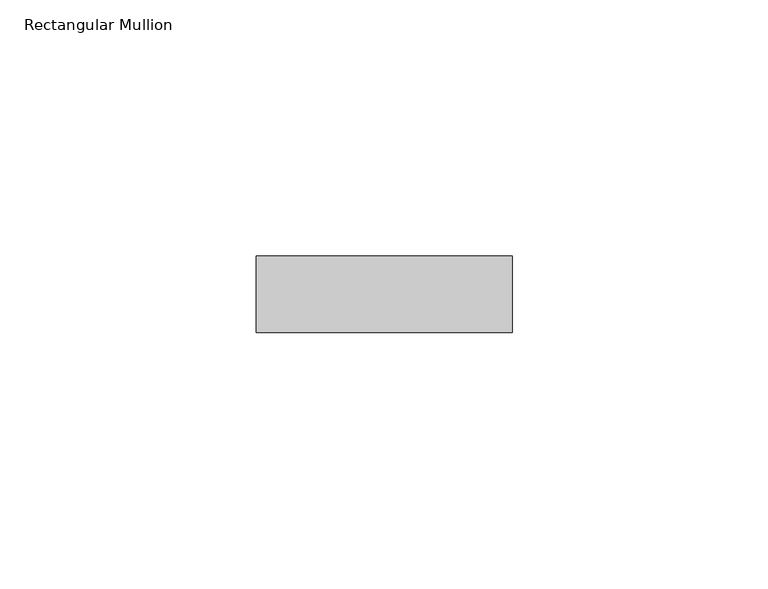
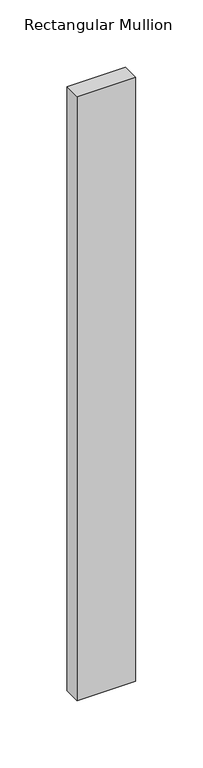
"""IFC4 building model written with IfcOpenShell, lengths in millimetres: member geometry, Rectangular Mullion : Ripa."""

from ifc_helpers import new_model, si_unit, frame, origin, place, context, project, spatial, polyline, outline, extrude, source, transform, mapped, element, save


def rectangular_mullion_59984080(model_context):
    return source(origin(), model_context, "Body", "SweptSolid", [
        extrude(outline(polyline([(0.0, -75.0), (-50.0, -75.0), (-50.0, -60.0), (0.0, -60.0), (0.0, -75.0)])), frame((0.0, 0.0, -547.0547567), z_axis=(0.0, 0.0, 1.0), x_axis=(1.0, 0.0, 0.0)), (0.0, 0.0, 1.0), 547.0547567),
    ])


if __name__ == "__main__":
    model = new_model("IFC4")
    model_context = context("Model", 3, world=origin())
    ifc_project = project(units=[si_unit("LENGTHUNIT", "METRE", prefix="MILLI")], contexts=[model_context])
    site = spatial("IfcSite", under=ifc_project)
    building = spatial("IfcBuilding", under=site)
    placement = place(None, origin())
    rectangular_mullion_shape = rectangular_mullion_59984080(model_context)
    element("IfcMember", 1, ObjectType="Rectangular Mullion : Ripa", at=placement, inside=building, context=model_context, shape_type="MappedRepresentation", body=[
        mapped(rectangular_mullion_shape, transform((0.0, 0.0, 0.0), x_axis=(1.0, 0.0, 0.0), y_axis=(0.0, 1.0, 0.0), z_axis=(0.0, 0.0, 1.0))),
    ])
    save(model, "model.ifc")
